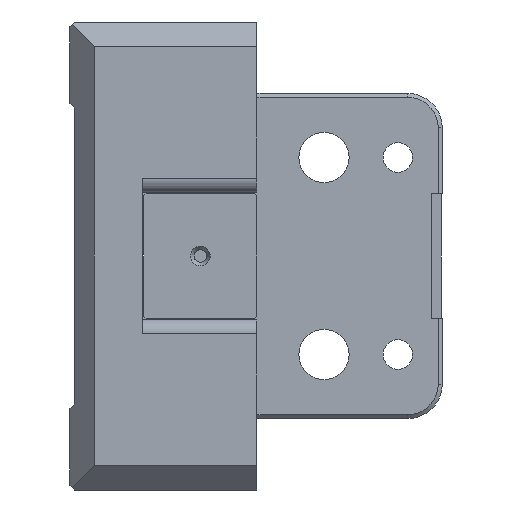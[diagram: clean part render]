
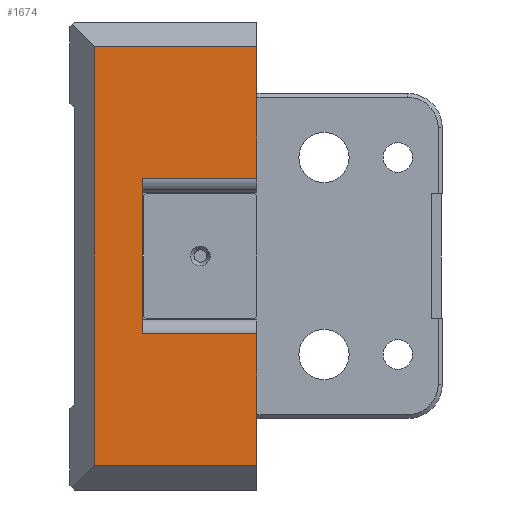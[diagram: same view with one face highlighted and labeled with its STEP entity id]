
A CAD part, left-side view. The second image highlights one B-rep face of the part: STEP entity #1674.
In plain terms, the highlighted planar face has unit normal (-1, 0, 0).
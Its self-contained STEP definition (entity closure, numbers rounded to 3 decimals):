
#57 = EDGE_LOOP ( 'NONE', ( #3434, #3427, #3376, #4278, #5063, #4927, #4086, #661 ) ) ;
#82 = DIRECTION ( 'NONE',  ( -1., 0., 0. ) ) ;
#484 = VECTOR ( 'NONE', #1666, 1000. ) ;
#569 = DIRECTION ( 'NONE',  ( 0., 0., 1. ) ) ;
#620 = VECTOR ( 'NONE', #569, 1000. ) ;
#661 = ORIENTED_EDGE ( 'NONE', *, *, #1635, .T. ) ;
#684 = VERTEX_POINT ( 'NONE', #946 ) ;
#736 = LINE ( 'NONE', #4816, #4809 ) ;
#760 = EDGE_CURVE ( 'NONE', #1288, #1583, #1260, .T. ) ;
#778 = VECTOR ( 'NONE', #4808, 1000. ) ;
#810 = CARTESIAN_POINT ( 'NONE',  ( -250., -14.8, 15.8 ) ) ;
#811 = VERTEX_POINT ( 'NONE', #2932 ) ;
#813 = CARTESIAN_POINT ( 'NONE',  ( -250., -38., -15.8 ) ) ;
#946 = CARTESIAN_POINT ( 'NONE',  ( -250., -38., 15.8 ) ) ;
#1076 = CARTESIAN_POINT ( 'NONE',  ( -250., -14.8, -15.8 ) ) ;
#1124 = VECTOR ( 'NONE', #1530, 1000. ) ;
#1131 = EDGE_CURVE ( 'NONE', #2427, #811, #1598, .T. ) ;
#1150 = CARTESIAN_POINT ( 'NONE',  ( -250., -14.8, 15.8 ) ) ;
#1177 = LINE ( 'NONE', #4330, #4958 ) ;
#1234 = CARTESIAN_POINT ( 'NONE',  ( -250., -38., 42.5 ) ) ;
#1260 = LINE ( 'NONE', #2734, #1124 ) ;
#1288 = VERTEX_POINT ( 'NONE', #1076 ) ;
#1305 = FACE_OUTER_BOUND ( 'NONE', #57, .T. ) ;
#1352 = CARTESIAN_POINT ( 'NONE',  ( -250., -38., -47.5 ) ) ;
#1410 = VECTOR ( 'NONE', #3375, 1000. ) ;
#1454 = LINE ( 'NONE', #1234, #484 ) ;
#1530 = DIRECTION ( 'NONE',  ( 0., -1., 0. ) ) ;
#1583 = VERTEX_POINT ( 'NONE', #813 ) ;
#1598 = LINE ( 'NONE', #4159, #3636 ) ;
#1635 = EDGE_CURVE ( 'NONE', #4022, #2427, #1454, .T. ) ;
#1666 = DIRECTION ( 'NONE',  ( 0., 1., 0. ) ) ;
#1674 = ADVANCED_FACE ( 'NONE', ( #1305 ), #4118, .T. ) ;
#1720 = DIRECTION ( 'NONE',  ( 0., 0., -1. ) ) ;
#1884 = DIRECTION ( 'NONE',  ( 0., -1., 0. ) ) ;
#1904 = CARTESIAN_POINT ( 'NONE',  ( -250., -5., 42.5 ) ) ;
#2385 = EDGE_CURVE ( 'NONE', #811, #3243, #1177, .T. ) ;
#2427 = VERTEX_POINT ( 'NONE', #1904 ) ;
#2487 = LINE ( 'NONE', #2547, #1410 ) ;
#2493 = CARTESIAN_POINT ( 'NONE',  ( -250., -38., -47.5 ) ) ;
#2547 = CARTESIAN_POINT ( 'NONE',  ( -250., -14.8, -15.8 ) ) ;
#2734 = CARTESIAN_POINT ( 'NONE',  ( -250., -14.8, -15.8 ) ) ;
#2779 = DIRECTION ( 'NONE',  ( 0., 0., 1. ) ) ;
#2794 = EDGE_CURVE ( 'NONE', #684, #4022, #4951, .T. ) ;
#2904 = DIRECTION ( 'NONE',  ( 0., 0., 1. ) ) ;
#2932 = CARTESIAN_POINT ( 'NONE',  ( -250., -5., -42.5 ) ) ;
#3183 = EDGE_CURVE ( 'NONE', #3983, #684, #5105, .T. ) ;
#3243 = VERTEX_POINT ( 'NONE', #4033 ) ;
#3375 = DIRECTION ( 'NONE',  ( 0., 0., -1. ) ) ;
#3376 = ORIENTED_EDGE ( 'NONE', *, *, #4609, .T. ) ;
#3427 = ORIENTED_EDGE ( 'NONE', *, *, #2385, .T. ) ;
#3434 = ORIENTED_EDGE ( 'NONE', *, *, #1131, .T. ) ;
#3636 = VECTOR ( 'NONE', #1720, 1000. ) ;
#3983 = VERTEX_POINT ( 'NONE', #810 ) ;
#4022 = VERTEX_POINT ( 'NONE', #4059 ) ;
#4033 = CARTESIAN_POINT ( 'NONE',  ( -250., -38., -42.5 ) ) ;
#4059 = CARTESIAN_POINT ( 'NONE',  ( -250., -38., 42.5 ) ) ;
#4086 = ORIENTED_EDGE ( 'NONE', *, *, #2794, .T. ) ;
#4118 = PLANE ( 'NONE',  #4861 ) ;
#4159 = CARTESIAN_POINT ( 'NONE',  ( -250., -5., -47.5 ) ) ;
#4206 = EDGE_CURVE ( 'NONE', #3983, #1288, #2487, .T. ) ;
#4278 = ORIENTED_EDGE ( 'NONE', *, *, #760, .F. ) ;
#4330 = CARTESIAN_POINT ( 'NONE',  ( -250., -38., -42.5 ) ) ;
#4609 = EDGE_CURVE ( 'NONE', #3243, #1583, #736, .T. ) ;
#4808 = DIRECTION ( 'NONE',  ( 0., -1., 0. ) ) ;
#4809 = VECTOR ( 'NONE', #2779, 1000. ) ;
#4816 = CARTESIAN_POINT ( 'NONE',  ( -250., -38., -47.5 ) ) ;
#4861 = AXIS2_PLACEMENT_3D ( 'NONE', #2493, #82, #2904 ) ;
#4927 = ORIENTED_EDGE ( 'NONE', *, *, #3183, .T. ) ;
#4951 = LINE ( 'NONE', #1352, #620 ) ;
#4958 = VECTOR ( 'NONE', #1884, 1000. ) ;
#5063 = ORIENTED_EDGE ( 'NONE', *, *, #4206, .F. ) ;
#5105 = LINE ( 'NONE', #1150, #778 ) ;
